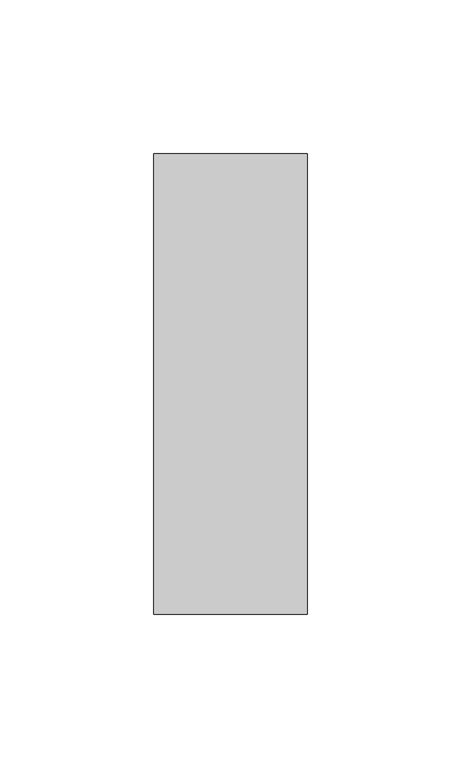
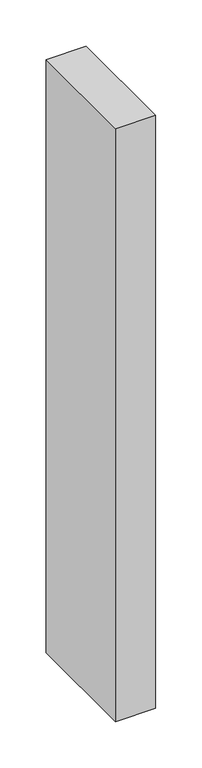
"""IFC4 building model written with IfcOpenShell, lengths in millimetres: member geometry, Прямоугольный импост : 50х150мм."""

from ifc_helpers import new_model, si_unit, frame, origin, place, context, project, spatial, polyline, outline, extrude, source, transform, mapped, element, save


def member_39176afa(model_context):
    return source(origin(), model_context, "Body", "SweptSolid", [
        extrude(outline(polyline([(25.0, 75.0), (25.0, -75.0), (-25.0, -75.0), (-25.0, 75.0), (25.0, 75.0)])), frame((0.0, 0.0, -781.8168429), z_axis=(0.0, 0.0, 1.0), x_axis=(1.0, 0.0, 0.0)), (0.0, 0.0, 1.0), 781.8168429),
    ])


if __name__ == "__main__":
    model = new_model("IFC4")
    model_context = context("Model", 3, world=origin())
    ifc_project = project(units=[si_unit("LENGTHUNIT", "METRE", prefix="MILLI")], contexts=[model_context])
    site = spatial("IfcSite", under=ifc_project)
    building = spatial("IfcBuilding", under=site)
    placement = place(None, origin())
    member_shape = member_39176afa(model_context)
    element("IfcMember", 1, ObjectType="Прямоугольный импост : 50х150мм", at=placement, inside=building, context=model_context, shape_type="MappedRepresentation", body=[
        mapped(member_shape, transform((0.0, 0.0, 0.0), x_axis=(1.0, 0.0, 0.0), y_axis=(0.0, 1.0, 0.0), z_axis=(0.0, 0.0, 1.0))),
    ])
    save(model, "model.ifc")
